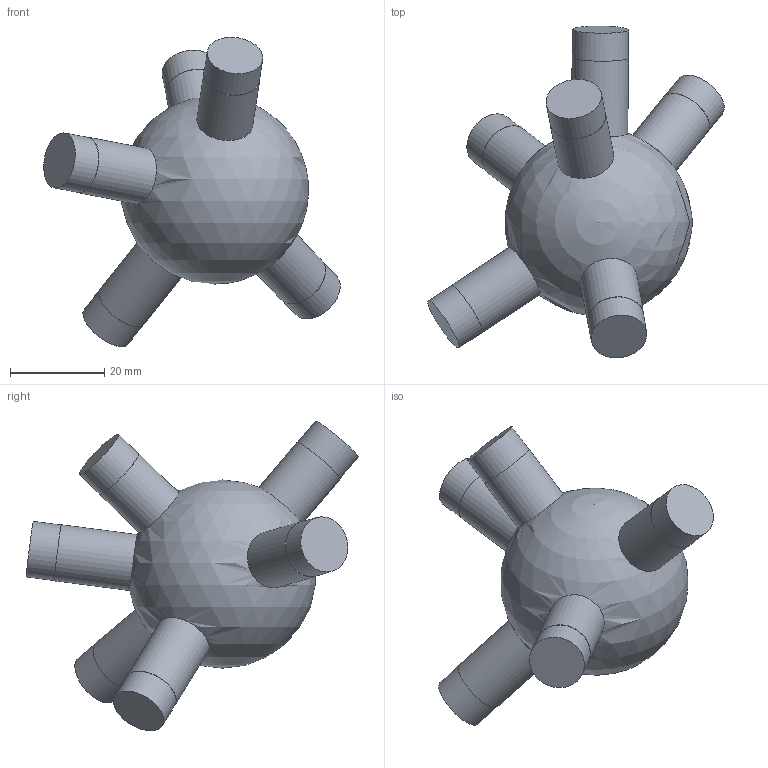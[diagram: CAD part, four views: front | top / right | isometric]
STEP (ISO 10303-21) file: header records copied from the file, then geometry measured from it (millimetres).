
FILE_DESCRIPTION(('Open CASCADE Model'),'2;1');
FILE_NAME('Open CASCADE Shape Model','2026-10-21T12:47:57',('Author'),( 'Open CASCADE'),'Open CASCADE STEP processor 7.9','Open CASCADE 7.9' ,'Unknown');
FILE_SCHEMA(('AUTOMOTIVE_DESIGN { 1 0 10303 214 1 1 1 1 }'));
Length unit declared in the file: millimetre
Products named in the file (1): Open CASCADE STEP translator 7.9 75
Bounding box: 63.04 x 70.57 x 65.78 mm (x, y, z)
Volume: 47125.8 mm3; surface area: 9665.3 mm2
Topology: 1 solids, 1 shells, 25 faces, 39 edges, 26 vertices
Faces by surface type: cylinder 12, plane 12, sphere 1
Full cylindrical faces by diameter (mm): 11.9 x6, 12 x6
Entity records: 1415 total; most frequent: CARTESIAN_POINT 550, DIRECTION 178, ORIENTED_EDGE 72, PCURVE 72, DEFINITIONAL_REPRESENTATION 72, LINE 60, VECTOR 60, AXIS2_PLACEMENT_3D 50
